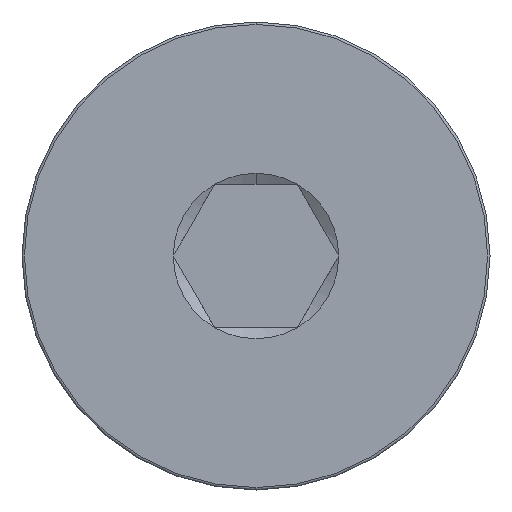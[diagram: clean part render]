
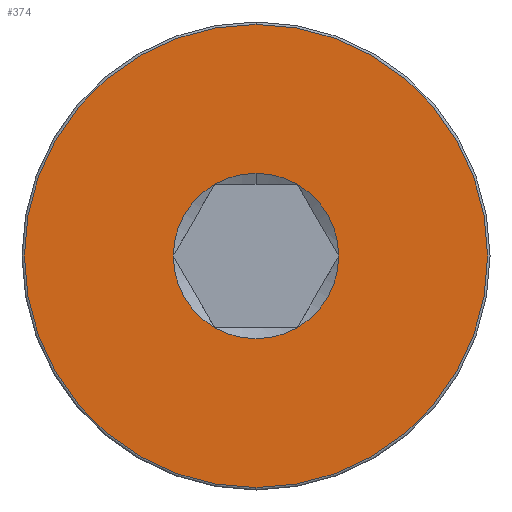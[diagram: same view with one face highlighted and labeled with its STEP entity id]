
A CAD part, left-side view. The second image highlights one B-rep face of the part: STEP entity #374.
In plain terms, the highlighted planar face has unit normal (-1, 0, 0).
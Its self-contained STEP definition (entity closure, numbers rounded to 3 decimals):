
#16 = AXIS2_PLACEMENT_3D ( 'NONE', #531, #224, #465 ) ;
#17 = DIRECTION ( 'NONE',  ( 0., 0., 1. ) ) ;
#33 = VERTEX_POINT ( 'NONE', #175 ) ;
#34 = VERTEX_POINT ( 'NONE', #66 ) ;
#44 = DIRECTION ( 'NONE',  ( -1., 0., 0. ) ) ;
#50 = ORIENTED_EDGE ( 'NONE', *, *, #201, .T. ) ;
#55 = AXIS2_PLACEMENT_3D ( 'NONE', #69, #733, #426 ) ;
#66 = CARTESIAN_POINT ( 'NONE',  ( 0., 0.866, 1.5 ) ) ;
#67 = AXIS2_PLACEMENT_3D ( 'NONE', #197, #143, #17 ) ;
#69 = CARTESIAN_POINT ( 'NONE',  ( 0., 0., 0. ) ) ;
#78 = VERTEX_POINT ( 'NONE', #514 ) ;
#86 = VERTEX_POINT ( 'NONE', #694 ) ;
#88 = DIRECTION ( 'NONE',  ( 1., 0., 0. ) ) ;
#91 = CARTESIAN_POINT ( 'NONE',  ( 0., 0., 0. ) ) ;
#93 = CIRCLE ( 'NONE', #546, 1.732 ) ;
#102 = CARTESIAN_POINT ( 'NONE',  ( 0., 0., 0. ) ) ;
#120 = ORIENTED_EDGE ( 'NONE', *, *, #533, .T. ) ;
#121 = CARTESIAN_POINT ( 'NONE',  ( 0., 0., 0. ) ) ;
#129 = DIRECTION ( 'NONE',  ( 0., 0., 1. ) ) ;
#130 = EDGE_CURVE ( 'NONE', #536, #78, #665, .T. ) ;
#131 = CIRCLE ( 'NONE', #55, 1.732 ) ;
#132 = AXIS2_PLACEMENT_3D ( 'NONE', #743, #439, #697 ) ;
#143 = DIRECTION ( 'NONE',  ( -1., 0., 0. ) ) ;
#145 = CIRCLE ( 'NONE', #132, 1.732 ) ;
#154 = VERTEX_POINT ( 'NONE', #333 ) ;
#156 = DIRECTION ( 'NONE',  ( 0., 0., 1. ) ) ;
#170 = VERTEX_POINT ( 'NONE', #328 ) ;
#174 = DIRECTION ( 'NONE',  ( 0., 0., -1. ) ) ;
#175 = CARTESIAN_POINT ( 'NONE',  ( 0., 0., 4.85 ) ) ;
#189 = EDGE_CURVE ( 'NONE', #78, #469, #218, .T. ) ;
#197 = CARTESIAN_POINT ( 'NONE',  ( 0., 0., 0. ) ) ;
#201 = EDGE_CURVE ( 'NONE', #245, #86, #744, .T. ) ;
#218 = CIRCLE ( 'NONE', #16, 1.732 ) ;
#224 = DIRECTION ( 'NONE',  ( 1., 0., 0. ) ) ;
#245 = VERTEX_POINT ( 'NONE', #589 ) ;
#265 = EDGE_CURVE ( 'NONE', #33, #170, #767, .T. ) ;
#328 = CARTESIAN_POINT ( 'NONE',  ( 0., 0., -4.85 ) ) ;
#333 = CARTESIAN_POINT ( 'NONE',  ( 0., -1.732, 0. ) ) ;
#357 = DIRECTION ( 'NONE',  ( -1., 0., 0. ) ) ;
#361 = FACE_BOUND ( 'NONE', #575, .T. ) ;
#364 = ORIENTED_EDGE ( 'NONE', *, *, #130, .T. ) ;
#374 = ADVANCED_FACE ( 'NONE', ( #552, #361 ), #675, .T. ) ;
#382 = EDGE_CURVE ( 'NONE', #86, #154, #131, .T. ) ;
#388 = ORIENTED_EDGE ( 'NONE', *, *, #382, .T. ) ;
#396 = DIRECTION ( 'NONE',  ( 0., 0., -1. ) ) ;
#398 = ORIENTED_EDGE ( 'NONE', *, *, #596, .T. ) ;
#413 = ORIENTED_EDGE ( 'NONE', *, *, #444, .T. ) ;
#426 = DIRECTION ( 'NONE',  ( 0., 0., -1. ) ) ;
#439 = DIRECTION ( 'NONE',  ( 1., 0., 0. ) ) ;
#444 = EDGE_CURVE ( 'NONE', #34, #245, #503, .T. ) ;
#449 = ORIENTED_EDGE ( 'NONE', *, *, #189, .T. ) ;
#463 = CIRCLE ( 'NONE', #67, 4.85 ) ;
#465 = DIRECTION ( 'NONE',  ( 0., 0., -1. ) ) ;
#466 = DIRECTION ( 'NONE',  ( 0., 0., -1. ) ) ;
#469 = VERTEX_POINT ( 'NONE', #637 ) ;
#480 = DIRECTION ( 'NONE',  ( 1., 0., 0. ) ) ;
#503 = CIRCLE ( 'NONE', #568, 1.732 ) ;
#507 = CARTESIAN_POINT ( 'NONE',  ( 0., -0.866, -1.5 ) ) ;
#514 = CARTESIAN_POINT ( 'NONE',  ( 0., 0.866, -1.5 ) ) ;
#531 = CARTESIAN_POINT ( 'NONE',  ( 0., 0., 0. ) ) ;
#533 = EDGE_CURVE ( 'NONE', #170, #33, #463, .T. ) ;
#536 = VERTEX_POINT ( 'NONE', #507 ) ;
#546 = AXIS2_PLACEMENT_3D ( 'NONE', #102, #765, #466 ) ;
#552 = FACE_OUTER_BOUND ( 'NONE', #598, .T. ) ;
#562 = ORIENTED_EDGE ( 'NONE', *, *, #639, .T. ) ;
#568 = AXIS2_PLACEMENT_3D ( 'NONE', #782, #480, #174 ) ;
#575 = EDGE_LOOP ( 'NONE', ( #398, #413, #50, #388, #562, #364, #449 ) ) ;
#589 = CARTESIAN_POINT ( 'NONE',  ( 0., 0., 1.732 ) ) ;
#592 = AXIS2_PLACEMENT_3D ( 'NONE', #121, #357, #129 ) ;
#596 = EDGE_CURVE ( 'NONE', #469, #34, #145, .T. ) ;
#598 = EDGE_LOOP ( 'NONE', ( #613, #120 ) ) ;
#613 = ORIENTED_EDGE ( 'NONE', *, *, #265, .T. ) ;
#624 = DIRECTION ( 'NONE',  ( 0., 0., -1. ) ) ;
#637 = CARTESIAN_POINT ( 'NONE',  ( 0., 1.732, 0. ) ) ;
#638 = CARTESIAN_POINT ( 'NONE',  ( 0., 0., 0. ) ) ;
#639 = EDGE_CURVE ( 'NONE', #154, #536, #93, .T. ) ;
#656 = AXIS2_PLACEMENT_3D ( 'NONE', #701, #44, #156 ) ;
#665 = CIRCLE ( 'NONE', #779, 1.732 ) ;
#675 = PLANE ( 'NONE',  #592 ) ;
#694 = CARTESIAN_POINT ( 'NONE',  ( 0., -0.866, 1.5 ) ) ;
#697 = DIRECTION ( 'NONE',  ( 0., 0., -1. ) ) ;
#701 = CARTESIAN_POINT ( 'NONE',  ( 0., 0., 0. ) ) ;
#711 = DIRECTION ( 'NONE',  ( 1., 0., 0. ) ) ;
#733 = DIRECTION ( 'NONE',  ( 1., 0., 0. ) ) ;
#742 = AXIS2_PLACEMENT_3D ( 'NONE', #91, #711, #396 ) ;
#743 = CARTESIAN_POINT ( 'NONE',  ( 0., 0., 0. ) ) ;
#744 = CIRCLE ( 'NONE', #742, 1.732 ) ;
#765 = DIRECTION ( 'NONE',  ( 1., 0., 0. ) ) ;
#767 = CIRCLE ( 'NONE', #656, 4.85 ) ;
#779 = AXIS2_PLACEMENT_3D ( 'NONE', #638, #88, #624 ) ;
#782 = CARTESIAN_POINT ( 'NONE',  ( 0., 0., 0. ) ) ;
